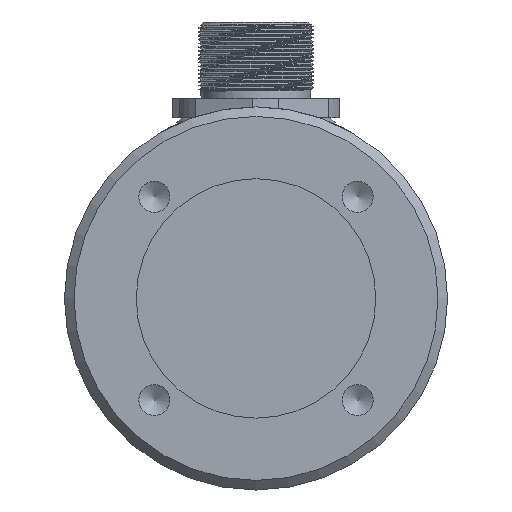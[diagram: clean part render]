
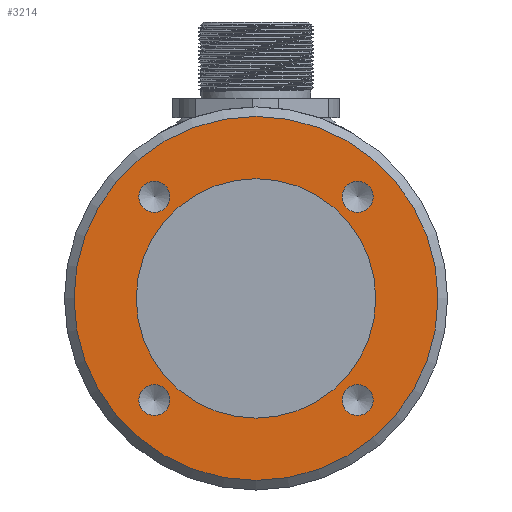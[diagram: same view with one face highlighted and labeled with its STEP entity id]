
A CAD part, left-side view. The second image highlights one B-rep face of the part: STEP entity #3214.
In plain terms, the highlighted planar face has unit normal (-1, 0, 0).
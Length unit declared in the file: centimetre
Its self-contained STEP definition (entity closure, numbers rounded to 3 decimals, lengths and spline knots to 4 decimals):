
#708=PLANE('',#3457);
#790=CIRCLE('',#3420,0.1621);
#792=CIRCLE('',#3424,0.1621);
#794=CIRCLE('',#3428,0.1621);
#796=CIRCLE('',#3432,0.1621);
#801=CIRCLE('',#3445,1.25);
#807=CIRCLE('',#3456,1.9);
#1204=VERTEX_POINT('',#5920);
#1207=VERTEX_POINT('',#5927);
#1210=VERTEX_POINT('',#5934);
#1213=VERTEX_POINT('',#5941);
#1221=VERTEX_POINT('',#5978);
#1229=VERTEX_POINT('',#5999);
#1620=EDGE_CURVE('',#1204,#1204,#790,.T.);
#1622=EDGE_CURVE('',#1207,#1207,#792,.T.);
#1624=EDGE_CURVE('',#1210,#1210,#794,.T.);
#1626=EDGE_CURVE('',#1213,#1213,#796,.T.);
#1640=EDGE_CURVE('',#1221,#1221,#801,.T.);
#1648=EDGE_CURVE('',#1229,#1229,#807,.T.);
#2156=ORIENTED_EDGE('',*,*,#1620,.T.);
#2157=ORIENTED_EDGE('',*,*,#1622,.T.);
#2158=ORIENTED_EDGE('',*,*,#1624,.T.);
#2159=ORIENTED_EDGE('',*,*,#1626,.T.);
#2160=ORIENTED_EDGE('',*,*,#1640,.T.);
#2161=ORIENTED_EDGE('',*,*,#1648,.F.);
#2733=EDGE_LOOP('',(#2156));
#2734=EDGE_LOOP('',(#2157));
#2735=EDGE_LOOP('',(#2158));
#2736=EDGE_LOOP('',(#2159));
#2737=EDGE_LOOP('',(#2160));
#2738=EDGE_LOOP('',(#2161));
#2984=FACE_BOUND('',#2733,.T.);
#2985=FACE_BOUND('',#2734,.T.);
#2986=FACE_BOUND('',#2735,.T.);
#2987=FACE_BOUND('',#2736,.T.);
#2988=FACE_BOUND('',#2737,.T.);
#2989=FACE_BOUND('',#2738,.T.);
#3214=ADVANCED_FACE('',(#2984,#2985,#2986,#2987,#2988,#2989),#708,.T.);
#3420=AXIS2_PLACEMENT_3D('',#5919,#3781,#3782);
#3424=AXIS2_PLACEMENT_3D('',#5926,#3789,#3790);
#3428=AXIS2_PLACEMENT_3D('',#5933,#3797,#3798);
#3432=AXIS2_PLACEMENT_3D('',#5940,#3805,#3806);
#3445=AXIS2_PLACEMENT_3D('',#5977,#3830,#3831);
#3456=AXIS2_PLACEMENT_3D('',#5998,#3852,#3853);
#3457=AXIS2_PLACEMENT_3D('',#6000,#3854,$);
#3781=DIRECTION('',(1.,0.,0.));
#3782=DIRECTION('',(0.,0.,0.162));
#3789=DIRECTION('',(1.,0.,0.));
#3790=DIRECTION('',(0.,0.,0.162));
#3797=DIRECTION('',(1.,0.,0.));
#3798=DIRECTION('',(0.,0.,0.162));
#3805=DIRECTION('',(1.,0.,0.));
#3806=DIRECTION('',(0.,0.,0.162));
#3830=DIRECTION('',(1.,0.,0.));
#3831=DIRECTION('',(0.,0.,1.25));
#3852=DIRECTION('',(1.,0.,0.));
#3853=DIRECTION('',(0.,0.,1.9));
#3854=DIRECTION('',(-1.,0.,0.));
#5919=CARTESIAN_POINT('',(0.,1.0607,-1.0607));
#5920=CARTESIAN_POINT('',(0.,1.0607,-0.8986));
#5926=CARTESIAN_POINT('',(0.,-1.0607,-1.0607));
#5927=CARTESIAN_POINT('',(0.,-1.0607,-0.8986));
#5933=CARTESIAN_POINT('',(0.,-1.0607,1.0607));
#5934=CARTESIAN_POINT('',(0.,-1.0607,1.2228));
#5940=CARTESIAN_POINT('',(0.,1.0607,1.0607));
#5941=CARTESIAN_POINT('',(0.,1.0607,1.2228));
#5977=CARTESIAN_POINT('',(0.,0.,0.));
#5978=CARTESIAN_POINT('',(0.,0.,1.25));
#5998=CARTESIAN_POINT('',(0.,0.,0.));
#5999=CARTESIAN_POINT('',(0.,0.,-1.9));
#6000=CARTESIAN_POINT('',(0.,0.,-0.625));
